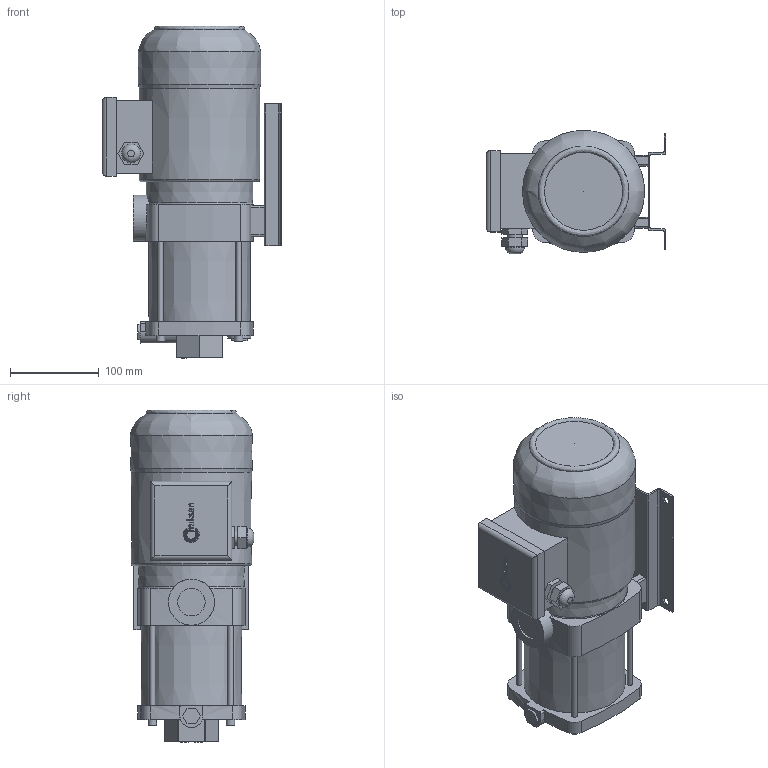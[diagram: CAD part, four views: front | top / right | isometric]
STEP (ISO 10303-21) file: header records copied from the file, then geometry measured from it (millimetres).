
FILE_DESCRIPTION(/* description */ ('Unknown'),/* implementation_level */ '2;1');
FILE_NAME(/* name */ 'hc03',/* time_stamp */ '2025-06-17T14:10:57+03:00',/* author */ ('Unknown'),/* organization */ ('Unknown'),/* preprocessor_version */ 'ST-DEVELOPER v16.7',/* originating_system */ 'DEX',/* authorisation */ $);
FILE_SCHEMA (('AUTOMOTIVE_DESIGN {1 0 10303 214 3 1 1}'));
Length unit declared in the file: millimetre
Products named in the file (1): hc03
Bounding box: 203 x 139.29 x 375.08 mm (x, y, z)
Volume: 5043310.3 mm3; surface area: 271107.8 mm2
Topology: 1 solids, 1 shells, 254 faces, 664 edges, 441 vertices
Faces by surface type: plane 105, bspline 71, cylinder 63, cone 12, torus 3
Full cylindrical faces by diameter (mm): 6 x4, 9 x4, 9.5 x4, 17 x1, 21.5 x1, 26 x1, 31 x1, 39.268 x1, 52 x1
Entity records: 11165 total; most frequent: CARTESIAN_POINT 5422, ORIENTED_EDGE 1246, DIRECTION 975, EDGE_CURVE 623, VERTEX_POINT 430, AXIS2_PLACEMENT_3D 333, FACE_BOUND 331, EDGE_LOOP 330
